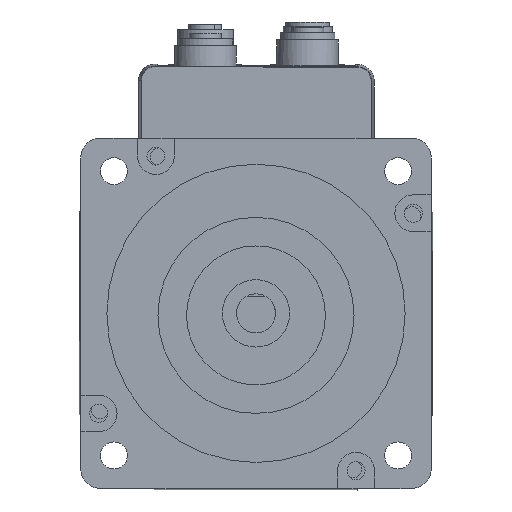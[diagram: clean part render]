
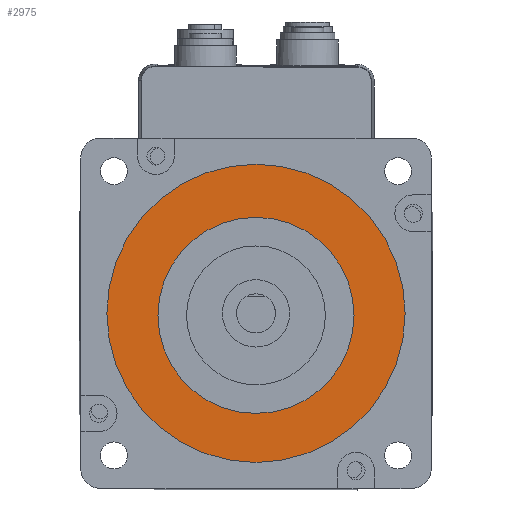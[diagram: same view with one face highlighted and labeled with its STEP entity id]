
A CAD part, front view. The second image highlights one B-rep face of the part: STEP entity #2975.
In plain terms, the highlighted planar face has unit normal (0, -1, 0).
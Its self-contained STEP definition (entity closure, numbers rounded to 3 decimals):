
#2975 = ADVANCED_FACE( '', ( #6233, #6234 ), #6235, .F. );
#6233 = FACE_OUTER_BOUND( '', #10053, .T. );
#6234 = FACE_BOUND( '', #10054, .T. );
#6235 = PLANE( '', #10055 );
#10053 = EDGE_LOOP( '', ( #18497 ) );
#10054 = EDGE_LOOP( '', ( #18498 ) );
#10055 = AXIS2_PLACEMENT_3D( '', #18499, #18500, #18501 );
#18497 = ORIENTED_EDGE( '', *, *, #22701, .F. );
#18498 = ORIENTED_EDGE( '', *, *, #20019, .T. );
#18499 = CARTESIAN_POINT( '', ( 46.966, -2., 64.064 ) );
#18500 = DIRECTION( '', ( 0., 1., 0. ) );
#18501 = DIRECTION( '', ( 1., 0., 0. ) );
#20019 = EDGE_CURVE( '', #23833, #23833, #23834, .T. );
#22701 = EDGE_CURVE( '', #27684, #27684, #27685, .T. );
#23833 = VERTEX_POINT( '', #29053 );
#23834 = CIRCLE( '', #29054, 24. );
#27684 = VERTEX_POINT( '', #34520 );
#27685 = CIRCLE( '', #34521, 36.5 );
#29053 = CARTESIAN_POINT( '', ( 70.966, -2., 63.564 ) );
#29054 = AXIS2_PLACEMENT_3D( '', #35613, #35614, #35615 );
#34520 = CARTESIAN_POINT( '', ( 46.966, -2., 100.564 ) );
#34521 = AXIS2_PLACEMENT_3D( '', #38990, #38991, #38992 );
#35613 = CARTESIAN_POINT( '', ( 46.966, -2., 63.564 ) );
#35614 = DIRECTION( '', ( 0., 1., 0. ) );
#35615 = DIRECTION( '', ( 1., 0., 0. ) );
#38990 = CARTESIAN_POINT( '', ( 46.966, -2., 64.064 ) );
#38991 = DIRECTION( '', ( 0., 1., 0. ) );
#38992 = DIRECTION( '', ( 0., 0., 1. ) );
